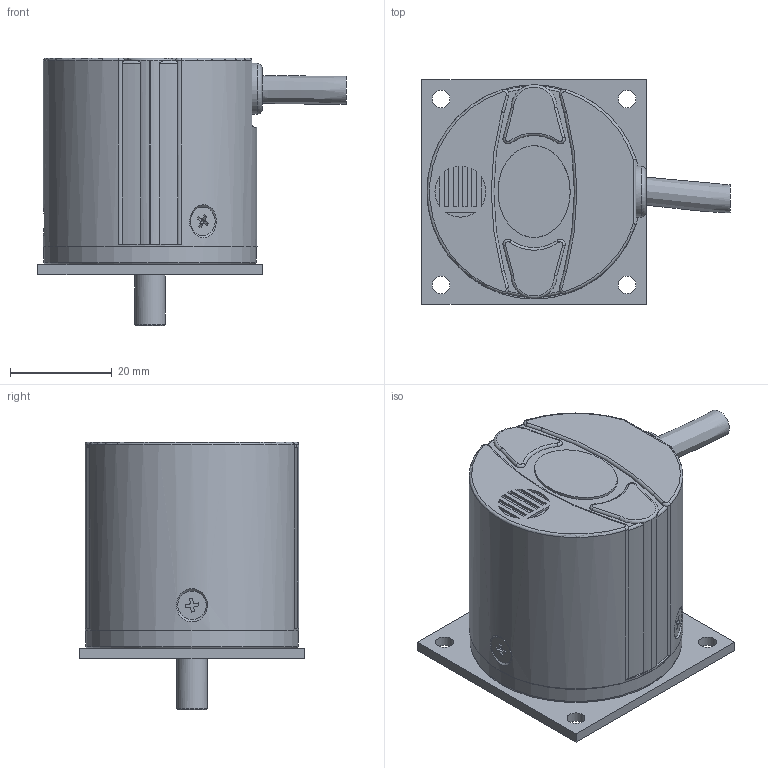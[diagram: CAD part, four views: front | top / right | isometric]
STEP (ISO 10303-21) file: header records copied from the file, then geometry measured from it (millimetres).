
FILE_DESCRIPTION( ( 'Unknown' ), '1' );
FILE_NAME( 'C:/Users/malfermoa/Desktop/step/EL40B.stp', 'Unknown', ( 'Unknown' ), ( 'Unknown' ), 'PSStep 15.0.49', 'Unknown', ' ' );
FILE_SCHEMA( ( 'AUTOMOTIVE_DESIGN { 1 0 10303 214 1 1 1 1 }' ) );
Length unit declared in the file: millimetre
Products named in the file (12): Assem1; 41330003M1; 23290021 - 626zz 6x19x6; 41320006E1
Assembly tree (11 placements, depth 2):
  Assem1
    41330003M1
    23290021 - 626zz 6x19x6
    23290021 - 626zz 6x19x6
    23290021 - 626zz 6x19x6
    23290021 - 626zz 6x19x6
    23290021 - 626zz 6x19x6
    23290021 - 626zz 6x19x6
    23290021 - 626zz 6x19x6
    23290021 - 626zz 6x19x6
    23290021 - 626zz 6x19x6
    41320006E1
Bounding box: 60.47 x 44 x 52.5 mm (x, y, z)
Volume: 27433.9 mm3; surface area: 24128 mm2
Topology: 11 solids, 23 shells, 392 faces, 979 edges, 643 vertices
Faces by surface type: plane 176, cylinder 116, cone 41, torus 34, bspline 16, sphere 8, extrusion 1
Full cylindrical faces by diameter (mm): 2.459 x9, 2.5 x3, 3 x2, 3.5 x4, 5.6 x3, 6 x9, 7 x1, 7.1 x1, 7.5 x1, 8.5 x2, 8.997 x1, 10 x1, 16 x1, 16.5 x2, 17.9 x1, 19 x1, 20 x1, 24 x2, 36 x1, 38.8 x2, 39 x1, 41.7 x1, 42 x1
Entity records: 21619 total; most frequent: CARTESIAN_POINT 10039, DIRECTION 1749, ORIENTED_EDGE 1512, EDGE_CURVE 756, AXIS2_PLACEMENT_3D 700, VERTEX_POINT 570, EDGE_LOOP 535, FACE_OUTER_BOUND 436
